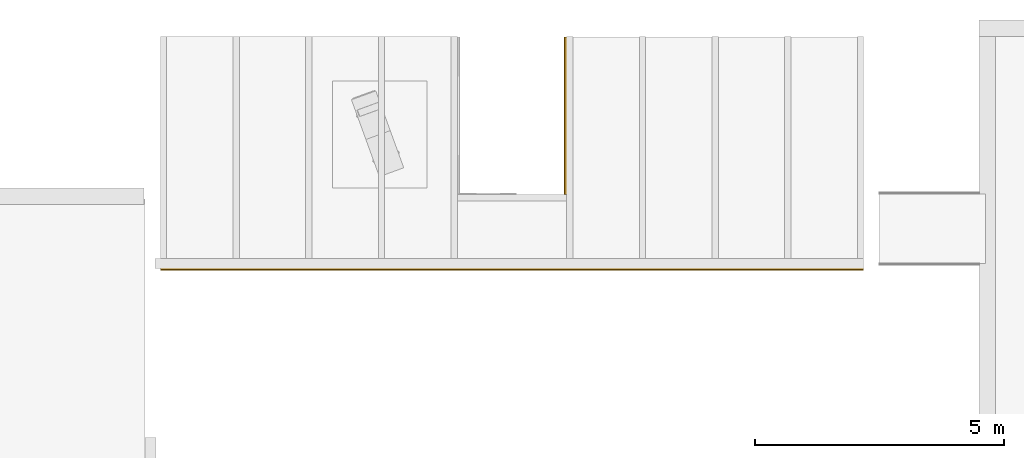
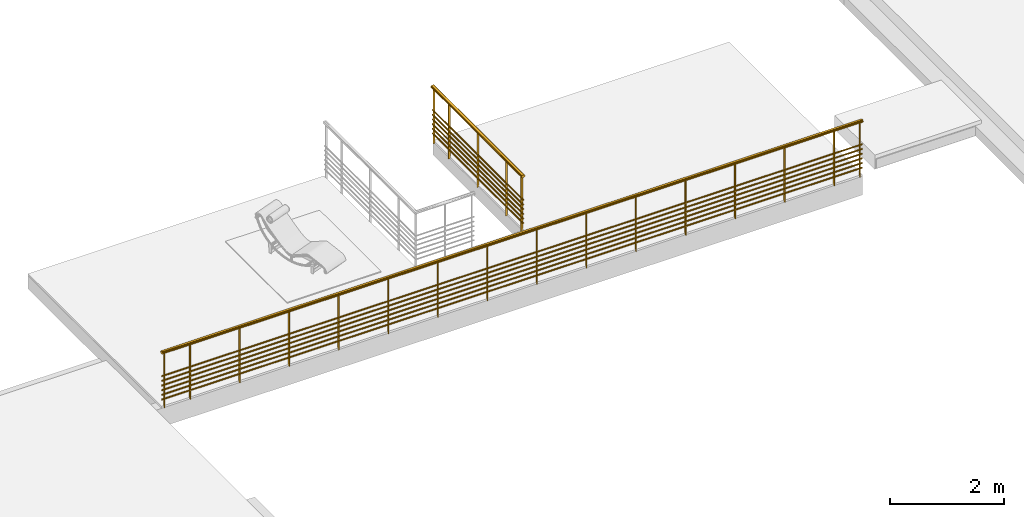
# One storey, part 2 of 2: 2 railings.
"""IFC2X3 building model written with IfcOpenShell, lengths in metres."""

from ifc_helpers import new_model, entity, si_unit, converted_unit, derived_unit, direction, frame, frame_2d, origin, origin_2d_with_axis, place, context, subcontext, project, spatial, polyline, rectangle, circle, outline, extrude, material, material_list, element, save


model = new_model("IFC2X3")

# Units and contexts
model_context = context("Model", 3, precision=1e-05, world=origin(), true_north=direction((6.12303176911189e-17, 1.0)))
body_context = subcontext(model_context, "Body", "Model", "MODEL_VIEW")
ifc_project = project(units=[si_unit("LENGTHUNIT", "METRE"), si_unit("AREAUNIT", "SQUARE_METRE"), si_unit("VOLUMEUNIT", "CUBIC_METRE"), converted_unit("PLANEANGLEUNIT", "DEGREE", entity("IfcRatioMeasure", 0.0174532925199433), si_unit("PLANEANGLEUNIT", "RADIAN"), dimensions=[0, 0, 0, 0, 0, 0, 0]), si_unit("MASSUNIT", "GRAM", prefix="KILO"), derived_unit("MASSDENSITYUNIT", [(si_unit("MASSUNIT", "GRAM", prefix="KILO"), 1), (si_unit("LENGTHUNIT", "METRE"), -3)]), si_unit("TIMEUNIT", "SECOND"), si_unit("FREQUENCYUNIT", "HERTZ"), si_unit("THERMODYNAMICTEMPERATUREUNIT", "DEGREE_CELSIUS"), derived_unit("THERMALTRANSMITTANCEUNIT", [(si_unit("MASSUNIT", "GRAM", prefix="KILO"), 1), (si_unit("THERMODYNAMICTEMPERATUREUNIT", "KELVIN"), -1), (si_unit("TIMEUNIT", "SECOND"), -3)]), derived_unit("VOLUMETRICFLOWRATEUNIT", [(si_unit("LENGTHUNIT", "METRE"), 3), (si_unit("TIMEUNIT", "SECOND"), -1)]), si_unit("ELECTRICCURRENTUNIT", "AMPERE"), si_unit("ELECTRICVOLTAGEUNIT", "VOLT"), si_unit("POWERUNIT", "WATT"), si_unit("FORCEUNIT", "NEWTON", prefix="KILO"), si_unit("ILLUMINANCEUNIT", "LUX"), si_unit("LUMINOUSFLUXUNIT", "LUMEN"), si_unit("LUMINOUSINTENSITYUNIT", "CANDELA"), derived_unit("USERDEFINED", [(si_unit("MASSUNIT", "GRAM", prefix="KILO"), -1), (si_unit("LENGTHUNIT", "METRE"), -2), (si_unit("TIMEUNIT", "SECOND"), 3), (si_unit("LUMINOUSFLUXUNIT", "LUMEN"), 1)]), derived_unit("LINEARVELOCITYUNIT", [(si_unit("LENGTHUNIT", "METRE"), 1), (si_unit("TIMEUNIT", "SECOND"), -1)]), si_unit("PRESSUREUNIT", "PASCAL"), derived_unit("USERDEFINED", [(si_unit("LENGTHUNIT", "METRE"), -2), (si_unit("MASSUNIT", "GRAM", prefix="KILO"), 1), (si_unit("TIMEUNIT", "SECOND"), -2)])], contexts=[model_context])

# Site, building, storey
site_placement = place(None, origin())
site = spatial("IfcSite", under=ifc_project, at=site_placement, Name="Surface", CompositionType="ELEMENT")
building_placement = place(site_placement, origin())
building = spatial("IfcBuilding", under=site, at=building_placement, CompositionType="ELEMENT")
storey_placement = place(building_placement, frame((0.0, 0.0, 3.0)))
storey = spatial("IfcBuildingStorey", under=building, at=storey_placement, Name="1er ETAGE", CompositionType="ELEMENT", Elevation=2.99999999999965)

# Railings
ifc_material_1 = material(Name="Peinture - Grise")
ifc_material_2 = material(Name="Pin (1)")
ifc_material_list_1 = material_list([ifc_material_1, ifc_material_2])
railing_1_placement = place(storey_placement, origin())
element("IfcRailing", 1, at=railing_1_placement, inside=storey, material=ifc_material_list_1, Name="Garde-corps:Type Bateau", ObjectType="Garde-corps:Type Bateau", PredefinedType="NOTDEFINED", context=body_context, shape_type="SweptSolid", body=[
    extrude(rectangle(XDim=0.0119999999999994, YDim=0.0400000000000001, at=frame_2d((-5.41233724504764e-16, -2.70616862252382e-16), x_axis=(1.0, 0.0))), frame((8.89751111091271, 2.87701067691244, 0.0), z_axis=(0.0, 0.0, 1.0), x_axis=(-1.0, 0.0, 0.0)), (0.0, 0.0, 1.0), 1.15984653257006),
    extrude(rectangle(XDim=0.0119999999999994, YDim=0.0400000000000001, at=frame_2d((5.41233724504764e-16, 2.70616862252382e-16), x_axis=(1.0, 0.0))), frame((7.89751111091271, 2.87701067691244, 0.0), z_axis=(0.0, 0.0, 1.0), x_axis=(-1.0, 0.0, 0.0)), (0.0, 0.0, 1.0), 1.15984653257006),
    extrude(rectangle(XDim=0.0119999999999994, YDim=0.0400000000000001, at=frame_2d((-5.41233724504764e-16, -2.70616862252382e-16), x_axis=(1.0, 0.0))), frame((6.89751111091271, 2.87701067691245, 0.0), z_axis=(0.0, 0.0, 1.0), x_axis=(-1.0, 0.0, 0.0)), (0.0, 0.0, 1.0), 1.15984653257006),
    extrude(rectangle(XDim=0.0119999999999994, YDim=0.0400000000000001, at=frame_2d((5.41233724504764e-16, 2.70616862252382e-16), x_axis=(1.0, 0.0))), frame((5.89751111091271, 2.87701067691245, 0.0), z_axis=(0.0, 0.0, 1.0), x_axis=(-1.0, 0.0, 0.0)), (0.0, 0.0, 1.0), 1.15984653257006),
    extrude(rectangle(XDim=0.0119999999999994, YDim=0.0400000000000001, at=frame_2d((5.41233724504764e-16, -2.70616862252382e-16), x_axis=(1.0, 0.0))), frame((4.89751111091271, 2.87701067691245, 0.0), z_axis=(0.0, 0.0, 1.0), x_axis=(-1.0, 0.0, 0.0)), (0.0, 0.0, 1.0), 1.15984653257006),
    extrude(rectangle(XDim=0.012, YDim=0.0400000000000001, at=frame_2d((2.70616862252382e-16, 2.70616862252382e-16), x_axis=(1.0, 0.0))), frame((3.89751111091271, 2.87701067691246, 0.0), z_axis=(0.0, 0.0, 1.0), x_axis=(-1.0, 0.0, 0.0)), (0.0, 0.0, 1.0), 1.15984653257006),
    extrude(rectangle(XDim=0.012, YDim=0.0400000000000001, at=frame_2d((-2.70616862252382e-16, -2.70616862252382e-16), x_axis=(1.0, 0.0))), frame((2.89751111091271, 2.87701067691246, 0.0), z_axis=(0.0, 0.0, 1.0), x_axis=(-1.0, 0.0, 0.0)), (0.0, 0.0, 1.0), 1.15984653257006),
    extrude(rectangle(XDim=0.012, YDim=0.0400000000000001, at=frame_2d((0.0, 2.70616862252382e-16), x_axis=(1.0, 0.0))), frame((1.89751111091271, 2.87701067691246, 0.0), z_axis=(0.0, 0.0, 1.0), x_axis=(-1.0, 0.0, 0.0)), (0.0, 0.0, 1.0), 1.15984653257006),
    extrude(rectangle(XDim=0.0119999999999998, YDim=0.0400000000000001, at=frame_2d((0.0, -2.70616862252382e-16), x_axis=(1.0, 0.0))), frame((0.897511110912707, 2.87701067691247, 0.0), z_axis=(0.0, 0.0, 1.0), x_axis=(-1.0, 0.0, 0.0)), (0.0, 0.0, 1.0), 1.15984653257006),
    extrude(rectangle(XDim=0.0119999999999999, YDim=0.0400000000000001, at=frame_2d((-8.23993651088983e-18, 2.70616862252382e-16), x_axis=(1.0, 0.0))), frame((-0.102488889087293, 2.87701067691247, 0.0), z_axis=(0.0, 0.0, 1.0), x_axis=(-1.0, 0.0, 0.0)), (0.0, 0.0, 1.0), 1.15984653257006),
    extrude(rectangle(XDim=0.0119999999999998, YDim=0.0400000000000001, at=frame_2d((0.0, -2.70616862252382e-16), x_axis=(1.0, 0.0))), frame((-1.10248888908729, 2.87701067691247, 0.0), z_axis=(0.0, 0.0, 1.0), x_axis=(-1.0, 0.0, 0.0)), (0.0, 0.0, 1.0), 1.15984653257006),
    extrude(rectangle(XDim=0.012, YDim=0.0400000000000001, at=frame_2d((0.0, 2.70616862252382e-16), x_axis=(1.0, 0.0))), frame((-2.10248888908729, 2.87701067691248, 0.0), z_axis=(0.0, 0.0, 1.0), x_axis=(-1.0, 0.0, 0.0)), (0.0, 0.0, 1.0), 1.15984653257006),
    extrude(rectangle(XDim=0.012, YDim=0.0400000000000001, at=frame_2d((-2.70616862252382e-16, -2.70616862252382e-16), x_axis=(1.0, 0.0))), frame((-3.10248888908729, 2.87701067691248, 0.0), z_axis=(0.0, 0.0, 1.0), x_axis=(-1.0, 0.0, 0.0)), (0.0, 0.0, 1.0), 1.15984653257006),
    extrude(rectangle(XDim=0.012, YDim=0.0400000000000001, at=frame_2d((2.70616862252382e-16, 2.70616862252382e-16), x_axis=(1.0, 0.0))), frame((-4.10248888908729, 2.87701067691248, 0.0), z_axis=(0.0, 0.0, 1.0), x_axis=(-1.0, 0.0, 0.0)), (0.0, 0.0, 1.0), 1.15984653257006),
    extrude(rectangle(XDim=0.0119999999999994, YDim=0.0400000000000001, at=frame_2d((-5.41233724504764e-16, -2.70616862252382e-16), x_axis=(1.0, 0.0))), frame((9.41751111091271, 2.87701067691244, 0.0), z_axis=(0.0, 0.0, 1.0), x_axis=(-1.0, 0.0, 0.0)), (0.0, 0.0, 1.0), 1.15984653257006),
    extrude(rectangle(XDim=0.012, YDim=0.0400000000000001, at=frame_2d((2.70616862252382e-16, -2.70616862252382e-16), x_axis=(1.0, 0.0))), frame((-4.62248888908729, 2.87701067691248, 0.0), z_axis=(0.0, 0.0, 1.0), x_axis=(-1.0, 0.0, 0.0)), (0.0, 0.0, 1.0), 1.15984653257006),
    extrude(circle(Radius=0.015, at=origin_2d_with_axis()), frame((-4.6724888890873, 2.87701067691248, 0.684999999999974), z_axis=(1.0, 0.0, 0.0), x_axis=(0.0, -1.0, 0.0)), (0.0, 0.0, 1.0), 14.14),
    extrude(circle(Radius=0.015, at=origin_2d_with_axis()), frame((-4.6724888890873, 2.87701067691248, 0.584999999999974), z_axis=(1.0, 0.0, 0.0), x_axis=(0.0, -1.0, 0.0)), (0.0, 0.0, 1.0), 14.14),
    extrude(circle(Radius=0.015, at=origin_2d_with_axis()), frame((-4.6724888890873, 2.87701067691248, 0.484999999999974), z_axis=(1.0, 0.0, 0.0), x_axis=(0.0, -1.0, 0.0)), (0.0, 0.0, 1.0), 14.14),
    extrude(circle(Radius=0.015, at=origin_2d_with_axis()), frame((-4.6724888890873, 2.87701067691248, 0.384999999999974), z_axis=(1.0, 0.0, 0.0), x_axis=(0.0, -1.0, 0.0)), (0.0, 0.0, 1.0), 14.14),
    extrude(circle(Radius=0.015, at=origin_2d_with_axis()), frame((-4.6724888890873, 2.87701067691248, 0.284999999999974), z_axis=(1.0, 0.0, 0.0), x_axis=(0.0, -1.0, 0.0)), (0.0, 0.0, 1.0), 14.14),
    extrude(circle(Radius=0.015, at=origin_2d_with_axis()), frame((-4.6724888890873, 2.87701067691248, 0.184999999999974), z_axis=(1.0, 0.0, 0.0), x_axis=(0.0, -1.0, 0.0)), (0.0, 0.0, 1.0), 14.14),
    extrude(outline(polyline([(-0.0109067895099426, -0.0384843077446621), (0.00177588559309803, -0.0384843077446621), (0.014151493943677, -0.03183002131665), (0.0240801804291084, -0.0196720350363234), (0.0298451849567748, -0.00411257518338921), (0.0304496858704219, 0.0121579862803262), (0.0257891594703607, 0.0263263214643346), (0.0166694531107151, 0.035942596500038), (0.0109067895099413, 0.0384843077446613), (-0.00177588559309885, 0.0384843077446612), (-0.0141514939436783, 0.0318300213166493), (-0.0240801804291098, 0.0196720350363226), (-0.0298451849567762, 0.00411257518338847), (-0.0304496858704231, -0.0121579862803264), (-0.025789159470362, -0.0263263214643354), (-0.016669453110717, -0.0359425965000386), (-0.0109067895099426, -0.0384843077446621)])), frame((-4.6724888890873, 2.87701067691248, 1.18999999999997), z_axis=(1.0, 0.0, 0.0), x_axis=(0.0, 0.272669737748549, -0.96210769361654)), (0.0, 0.0, 1.0), 14.14),
])
ifc_material_list_2 = material_list([ifc_material_1, ifc_material_2])
railing_2_placement = place(storey_placement, origin())
element("IfcRailing", 2, at=railing_2_placement, inside=storey, material=ifc_material_list_2, Name="Garde-corps:Type Bateau", ObjectType="Garde-corps:Type Bateau", PredefinedType="NOTDEFINED", context=body_context, shape_type="SweptSolid", body=[
    extrude(rectangle(XDim=0.0119999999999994, YDim=0.0400000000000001, at=frame_2d((0.0, -2.70616862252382e-16), x_axis=(1.0, 0.0))), frame((3.48571126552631, 4.95259891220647, 0.0), z_axis=(0.0, 0.0, 1.0), x_axis=(0.0, 1.0, 0.0)), (0.0, 0.0, 1.0), 1.15984653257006),
    extrude(rectangle(XDim=0.0119999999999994, YDim=0.0400000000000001, at=frame_2d((0.0, 2.70616862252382e-16), x_axis=(1.0, 0.0))), frame((3.48571126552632, 5.95259891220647, 0.0), z_axis=(0.0, 0.0, 1.0), x_axis=(0.0, 1.0, 0.0)), (0.0, 0.0, 1.0), 1.15984653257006),
    extrude(rectangle(XDim=0.0119999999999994, YDim=0.0400000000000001, at=frame_2d((0.0, -2.70616862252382e-16), x_axis=(1.0, 0.0))), frame((3.48571126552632, 6.95259891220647, 0.0), z_axis=(0.0, 0.0, 1.0), x_axis=(0.0, 1.0, 0.0)), (0.0, 0.0, 1.0), 1.15984653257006),
    extrude(rectangle(XDim=0.012, YDim=0.0400000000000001, at=frame_2d((-2.70616862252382e-16, 2.70616862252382e-16), x_axis=(1.0, 0.0))), frame((3.48571126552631, 4.41818714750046, 0.0), z_axis=(0.0, 0.0, 1.0), x_axis=(0.0, 1.0, 0.0)), (0.0, 0.0, 1.0), 1.15984653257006),
    extrude(rectangle(XDim=0.0119999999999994, YDim=0.0400000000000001, at=frame_2d((0.0, 2.70616862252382e-16), x_axis=(1.0, 0.0))), frame((3.48571126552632, 7.48701067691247, 0.0), z_axis=(0.0, 0.0, 1.0), x_axis=(0.0, 1.0, 0.0)), (0.0, 0.0, 1.0), 1.15984653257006),
    extrude(circle(Radius=0.015, at=origin_2d_with_axis()), frame((3.48571126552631, 4.36818714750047, 0.685), z_axis=(0.0, 1.0, 0.0), x_axis=(-1.0, 0.0, 0.0)), (0.0, 0.0, 1.0), 3.16882352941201),
    extrude(circle(Radius=0.015, at=origin_2d_with_axis()), frame((3.48571126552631, 4.36818714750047, 0.585), z_axis=(0.0, 1.0, 0.0), x_axis=(-1.0, 0.0, 0.0)), (0.0, 0.0, 1.0), 3.16882352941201),
    extrude(circle(Radius=0.015, at=origin_2d_with_axis()), frame((3.48571126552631, 4.36818714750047, 0.485), z_axis=(0.0, 1.0, 0.0), x_axis=(-1.0, 0.0, 0.0)), (0.0, 0.0, 1.0), 3.16882352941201),
    extrude(circle(Radius=0.015, at=origin_2d_with_axis()), frame((3.48571126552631, 4.36818714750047, 0.385), z_axis=(0.0, 1.0, 0.0), x_axis=(-1.0, 0.0, 0.0)), (0.0, 0.0, 1.0), 3.16882352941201),
    extrude(circle(Radius=0.015, at=origin_2d_with_axis()), frame((3.48571126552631, 4.36818714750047, 0.285), z_axis=(0.0, 1.0, 0.0), x_axis=(-1.0, 0.0, 0.0)), (0.0, 0.0, 1.0), 3.16882352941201),
    extrude(circle(Radius=0.015, at=origin_2d_with_axis()), frame((3.48571126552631, 4.36818714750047, 0.185), z_axis=(0.0, 1.0, 0.0), x_axis=(-1.0, 0.0, 0.0)), (0.0, 0.0, 1.0), 3.16882352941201),
    extrude(outline(polyline([(-0.0109067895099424, -0.0384843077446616), (0.00177588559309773, -0.0384843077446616), (0.0141514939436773, -0.0318300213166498), (0.0240801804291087, -0.0196720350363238), (0.0298451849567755, -0.00411257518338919), (0.0304496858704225, 0.0121579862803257), (0.0257891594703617, 0.0263263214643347), (0.0166694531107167, 0.035942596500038), (0.0109067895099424, 0.0384843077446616), (-0.00177588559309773, 0.0384843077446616), (-0.0141514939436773, 0.0318300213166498), (-0.0240801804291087, 0.0196720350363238), (-0.0298451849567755, 0.00411257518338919), (-0.0304496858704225, -0.0121579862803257), (-0.0257891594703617, -0.0263263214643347), (-0.0166694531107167, -0.035942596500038), (-0.0109067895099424, -0.0384843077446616)])), frame((3.48571126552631, 4.36818714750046, 1.19), z_axis=(0.0, 1.0, 0.0), x_axis=(0.27266973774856, 0.0, 0.962107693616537)), (0.0, 0.0, 1.0), 3.16882352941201),
])

save(model, "model.ifc")
